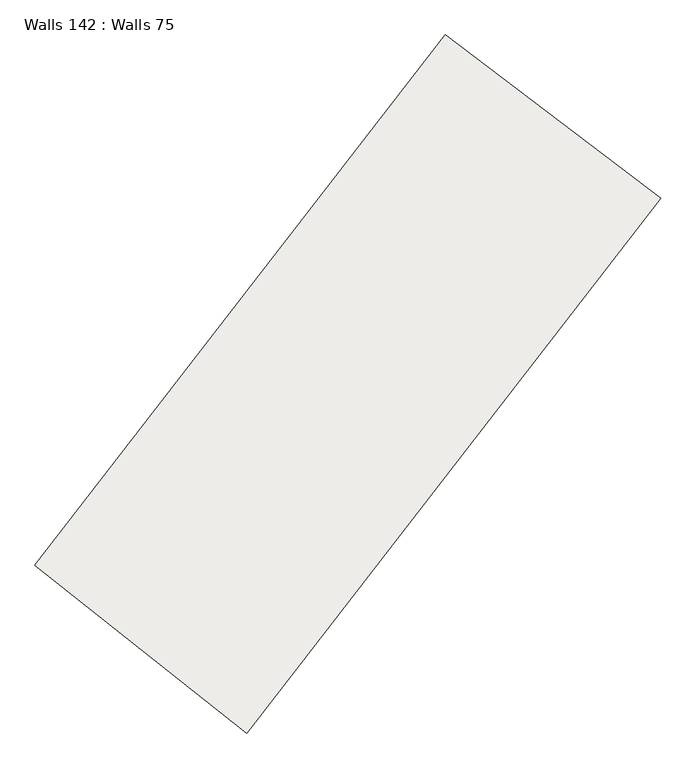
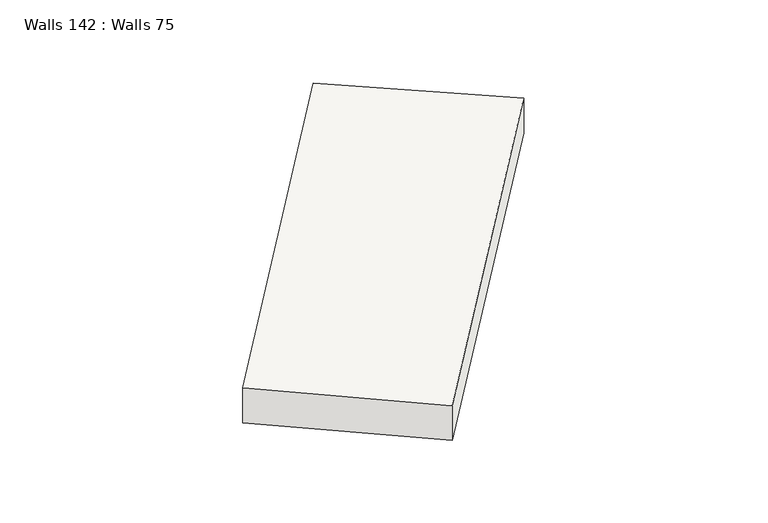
"""IFC4 building model written with IfcOpenShell, lengths in millimetres: slab geometry, Walls 142 : Walls 75."""

from ifc_helpers import new_model, si_unit, frame, origin, place, context, project, spatial, source, transform, mapped, element, save
from ifc_brep_helpers import plane_surface, spline_curve, spline_surface, advanced_brep


def walls_142_walls_75_3811282a(model_context):
    return source(origin(), model_context, "Body", "AdvancedBrep", [
        advanced_brep(
        [(62777.5461823, -87000.1570269, 639120.0), (65522.2059522, -89171.9863821, 639120.0), (65522.2059522, -89171.9863821, 639820.0), (62777.5461823, -87000.1570269, 639820.0), (68090.8288337, -80133.3092523, 639250.0), (68090.8288337, -80133.3092523, 639950.0), (70882.0729956, -82244.9332787, 639950.0), (70882.0729956, -82244.9332787, 639250.0)],
        [
            (0, 1),
            (1, 2),
            (2, 3),
            (3, 0),
            (4, 5),
            (5, 6),
            (6, 7),
            (7, 4),
            (5, 3, spline_curve(3, [(68090.8288337, -80133.3092523, 639950.0), (66344.696760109, -82441.428924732, 639906.666666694), (64573.46290215, -84730.558653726, 639863.333333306), (62777.5461823, -87000.1570269, 639820.0)], [4, 4], [0.0, 28.614133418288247])),
            (2, 6, spline_curve(3, [(65522.2059522, -89171.9863821, 639820.0), (67333.86843545, -86882.489225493, 639863.333333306), (69120.631648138, -84573.289470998, 639906.666666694), (70882.0729956, -82244.9332787, 639950.0)], [4, 4], [0.0, 28.614133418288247])),
            (4, 0, spline_curve(3, [(68090.8288337, -80133.3092523, 639250.0), (66344.696760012, -82441.42892497, 639206.666666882), (64573.462901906, -84730.558653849, 639163.333333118), (62777.5461823, -87000.1570269, 639120.0)], [4, 4], [0.0, 28.489271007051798])),
            (7, 1, spline_curve(3, [(70882.0729956, -82244.9332787, 639250.0), (69120.631648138, -84573.289470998, 639206.666666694), (67333.86843545, -86882.489225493, 639163.333333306), (65522.2059522, -89171.9863821, 639120.0)], [4, 4], [0.0, 28.614133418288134])),
        ],
        [
            plane_surface(frame((64149.8760672, -88086.0717045, 639470.0), z_axis=(-0.6205226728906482, -0.784188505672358, 0.0), x_axis=(-0.784188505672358, 0.6205226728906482, 0.0))),
            plane_surface(frame((69486.4509147, -81189.1212655, 639600.0), z_axis=(0.6033211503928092, 0.7974983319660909, 0.0), x_axis=(0.7974983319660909, -0.6033211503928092, 0.0))),
            spline_surface(3, 3, [[(70882.0729956, -82244.9332787, 639950.0), (69120.631647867, -84573.289471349, 639906.666666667), (67333.868434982, -86882.489225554, 639863.333333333), (65522.2059522, -89171.9863821, 639820.0)], [(69951.658274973, -81541.058603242, 639950.0), (68195.320018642, -83862.66928916, 639906.666666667), (66413.733257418, -86165.179034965, 639863.333333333), (64607.319362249, -88448.043263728, 639820.0)], [(69021.243554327, -80837.183927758, 639950.0), (67270.008389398, -83152.049106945, 639906.666666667), (65493.598079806, -85447.868844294, 639863.333333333), (63692.432772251, -87724.100145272, 639820.0)], [(68090.8288337, -80133.3092523, 639950.0), (66344.696760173, -82441.428924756, 639906.666666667), (64573.462902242, -84730.558653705, 639863.333333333), (62777.5461823, -87000.1570269, 639820.0)]], [4, 4], [4, 4], [0.0, 11.482939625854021], [0.0, 28.614133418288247]),
            spline_surface(3, 3, [[(68090.8288337, -80133.3092523, 639950.0), (66344.696760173, -82441.428924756, 639906.666666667), (64573.462902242, -84730.558653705, 639863.333333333), (62777.5461823, -87000.1570269, 639820.0)], [(68090.8288337, -80133.3092523, 639716.666666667), (66344.696760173, -82441.428924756, 639673.333333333), (64573.462902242, -84730.558653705, 639630.0), (62777.5461823, -87000.1570269, 639586.666666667)], [(68090.8288337, -80133.3092523, 639483.333333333), (66344.696760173, -82441.428924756, 639440.0), (64573.462902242, -84730.558653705, 639396.666666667), (62777.5461823, -87000.1570269, 639353.333333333)], [(68090.8288337, -80133.3092523, 639250.0), (66344.696760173, -82441.428924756, 639206.666666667), (64573.462902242, -84730.558653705, 639163.333333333), (62777.5461823, -87000.1570269, 639120.0)]], [4, 4], [4, 4], [0.0, 2.2965879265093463], [0.0, 28.489271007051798]),
            spline_surface(3, 3, [[(68090.8288337, -80133.3092523, 639250.0), (66344.696760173, -82441.428924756, 639206.666666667), (64573.462902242, -84730.558653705, 639163.333333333), (62777.5461823, -87000.1570269, 639120.0)], [(69021.243554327, -80837.183927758, 639250.0), (67270.008389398, -83152.049106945, 639206.666666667), (65493.598079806, -85447.868844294, 639163.333333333), (63692.432772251, -87724.100145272, 639120.0)], [(69951.658274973, -81541.058603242, 639250.0), (68195.320018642, -83862.66928916, 639206.666666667), (66413.733257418, -86165.179034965, 639163.333333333), (64607.319362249, -88448.043263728, 639120.0)], [(70882.0729956, -82244.9332787, 639250.0), (69120.631647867, -84573.289471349, 639206.666666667), (67333.868434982, -86882.489225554, 639163.333333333), (65522.2059522, -89171.9863821, 639120.0)]], [4, 4], [4, 4], [0.0, 11.482939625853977], [0.0, 28.614133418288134]),
            spline_surface(3, 3, [[(70882.0729956, -82244.9332787, 639250.0), (69120.631647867, -84573.289471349, 639206.666666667), (67333.868434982, -86882.489225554, 639163.333333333), (65522.2059522, -89171.9863821, 639120.0)], [(70882.0729956, -82244.9332787, 639483.333333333), (69120.631647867, -84573.289471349, 639440.0), (67333.868434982, -86882.489225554, 639396.666666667), (65522.2059522, -89171.9863821, 639353.333333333)], [(70882.0729956, -82244.9332787, 639716.666666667), (69120.631647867, -84573.289471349, 639673.333333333), (67333.868434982, -86882.489225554, 639630.0), (65522.2059522, -89171.9863821, 639586.666666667)], [(70882.0729956, -82244.9332787, 639950.0), (69120.631647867, -84573.289471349, 639906.666666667), (67333.868434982, -86882.489225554, 639863.333333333), (65522.2059522, -89171.9863821, 639820.0)]], [4, 4], [4, 4], [0.0, 2.2965879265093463], [0.0, 28.738995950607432]),
        ],
        [
            (0, [[1, 2, 3, 4]]),
            (1, [[5, 6, 7, 8]]),
            (2, [[-6, 9, -3, 10]]),
            (3, [[-5, 11, -4, -9]]),
            (4, [[-8, 12, -1, -11]]),
            (5, [[-7, -10, -2, -12]]),
        ],
    ),
    ])


if __name__ == "__main__":
    model = new_model("IFC4")
    model_context = context("Model", 3, world=origin())
    ifc_project = project(units=[si_unit("LENGTHUNIT", "METRE", prefix="MILLI")], contexts=[model_context])
    site = spatial("IfcSite", under=ifc_project)
    building = spatial("IfcBuilding", under=site)
    placement = place(None, origin())
    walls_142_walls_75_shape = walls_142_walls_75_3811282a(model_context)
    element("IfcSlab", 1, ObjectType="Walls 142 : Walls 75", at=placement, inside=building, context=model_context, shape_type="MappedRepresentation", body=[
        mapped(walls_142_walls_75_shape, transform((0.0, 0.0, 0.0), x_axis=(1.0, 0.0, 0.0), y_axis=(0.0, 1.0, 0.0), z_axis=(0.0, 0.0, 1.0))),
    ])
    save(model, "model.ifc")
